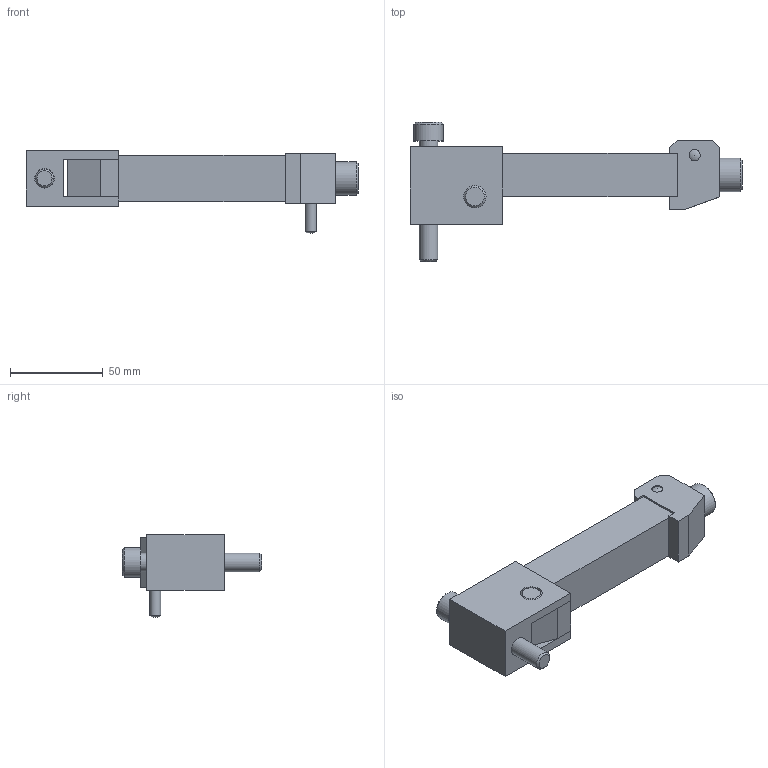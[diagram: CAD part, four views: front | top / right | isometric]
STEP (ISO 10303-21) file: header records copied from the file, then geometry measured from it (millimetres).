
FILE_DESCRIPTION( ( 'STEP AP214' ), '1' );
FILE_NAME( 'p:/temp/worker_3/temp/exporttempdir_4048_302_EfkjM/format_0/ZH901BIS.stp', '2021-02-11T19:22:48', ( 'License CC BY-ND 4.0' ), ( 'CADENAS' ), ' ', 'PARTsolutions', ' ' );
FILE_SCHEMA( ( 'AUTOMOTIVE_DESIGN { 1 0 10303 214 1 1 1 1 }' ) );
Length unit declared in the file: millimetre
Products named in the file (9): ZH901BIS; _ZH90/1 BIS_head; _ZH90/1 BIS_screw1; _ZH90/1 BIS_hand; _ZH90/1 BIS_screw2; _ZH90/1 BIS_he; _ZH90/1 BIS_screw3; _ZH90/1 BIS_stift1; _ZH90/1 BIS_stift2
Assembly tree (8 placements, depth 2):
  ZH901BIS
    _ZH90/1 BIS_head
    _ZH90/1 BIS_screw1
    _ZH90/1 BIS_hand
    _ZH90/1 BIS_screw2
    _ZH90/1 BIS_he
    _ZH90/1 BIS_screw3
    _ZH90/1 BIS_stift1
    _ZH90/1 BIS_stift2
Bounding box: 179 x 75 x 44.7 mm (x, y, z)
Volume: 135756.9 mm3; surface area: 43917.6 mm2
Topology: 8 solids, 8 shells, 95 faces, 218 edges, 142 vertices
Faces by surface type: plane 67, cylinder 15, cone 11, sphere 2
Full cylindrical faces by diameter (mm): 4.134 x1, 5 x1, 6 x2, 10 x1, 10.106 x1, 10.5 x1, 12 x5, 13 x1, 16 x1, 18 x1
Entity records: 3438 total; most frequent: CARTESIAN_POINT 474, DIRECTION 428, ORIENTED_EDGE 364, EDGE_CURVE 182, AXIS2_PLACEMENT_3D 143, LINE 142, VECTOR 142, EDGE_LOOP 140
